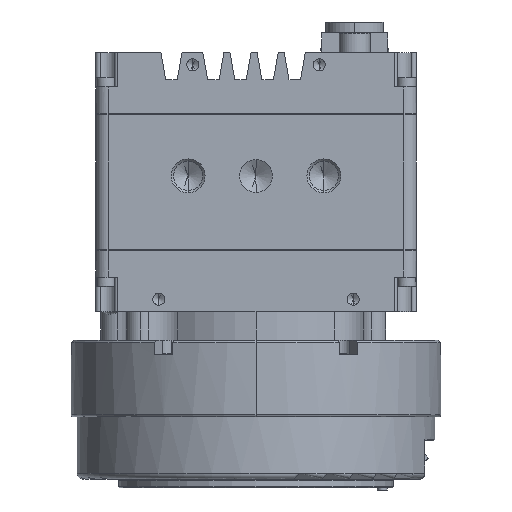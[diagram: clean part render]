
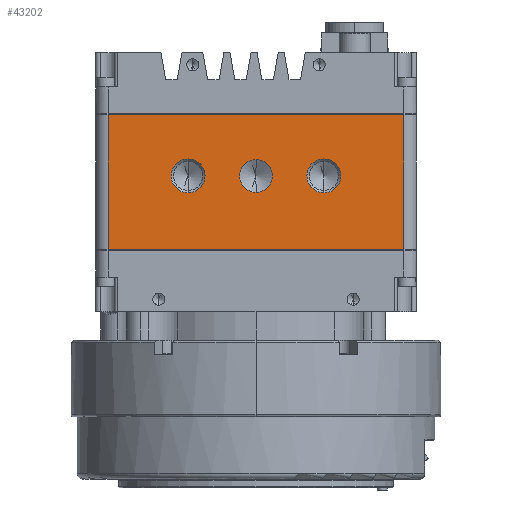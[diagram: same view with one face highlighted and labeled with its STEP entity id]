
A CAD part, front view. The second image highlights one B-rep face of the part: STEP entity #43202.
In plain terms, the highlighted planar face has unit normal (0, -1, 0).
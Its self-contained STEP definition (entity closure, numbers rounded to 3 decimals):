
#59 = FACE_BOUND ( 'NONE', #43498, .T. ) ;
#549 = AXIS2_PLACEMENT_3D ( 'NONE', #18998, #41829, #32364 ) ;
#1091 = VECTOR ( 'NONE', #53051, 1000. ) ;
#1901 = CARTESIAN_POINT ( 'NONE',  ( 30.48, -26.67, 0. ) ) ;
#3075 = ORIENTED_EDGE ( 'NONE', *, *, #6513, .T. ) ;
#3559 = VERTEX_POINT ( 'NONE', #9481 ) ;
#3690 = DIRECTION ( 'NONE',  ( 0., -1., 0. ) ) ;
#3990 = LINE ( 'NONE', #1901, #14362 ) ;
#4199 = FACE_OUTER_BOUND ( 'NONE', #6893, .T. ) ;
#4215 = ORIENTED_EDGE ( 'NONE', *, *, #15147, .F. ) ;
#4569 = EDGE_CURVE ( 'NONE', #34169, #51391, #52384, .T. ) ;
#5108 = CARTESIAN_POINT ( 'NONE',  ( 30.48, -26.67, -27.813 ) ) ;
#5754 = CIRCLE ( 'NONE', #28764, 3.5 ) ;
#6021 = CARTESIAN_POINT ( 'NONE',  ( -14., -26.67, -12.7 ) ) ;
#6449 = ORIENTED_EDGE ( 'NONE', *, *, #29786, .F. ) ;
#6513 = EDGE_CURVE ( 'NONE', #32378, #18016, #42463, .T. ) ;
#6772 = EDGE_CURVE ( 'NONE', #8879, #27399, #7829, .T. ) ;
#6893 = EDGE_LOOP ( 'NONE', ( #3075, #11888, #51635, #35878 ) ) ;
#7829 = CIRCLE ( 'NONE', #8107, 3.378 ) ;
#7920 = DIRECTION ( 'NONE',  ( 0., 0., -1. ) ) ;
#8107 = AXIS2_PLACEMENT_3D ( 'NONE', #56404, #3690, #7920 ) ;
#8879 = VERTEX_POINT ( 'NONE', #26530 ) ;
#9481 = CARTESIAN_POINT ( 'NONE',  ( -30.48, -26.67, -27.813 ) ) ;
#10412 = FACE_BOUND ( 'NONE', #40564, .T. ) ;
#11888 = ORIENTED_EDGE ( 'NONE', *, *, #20032, .T. ) ;
#12428 = CARTESIAN_POINT ( 'NONE',  ( 14., -26.67, -12.7 ) ) ;
#12952 = CARTESIAN_POINT ( 'NONE',  ( 14., -26.67, -9.2 ) ) ;
#13788 = EDGE_CURVE ( 'NONE', #51391, #34169, #5754, .T. ) ;
#14362 = VECTOR ( 'NONE', #15549, 1000. ) ;
#14440 = CARTESIAN_POINT ( 'NONE',  ( -14., -26.67, -12.7 ) ) ;
#15123 = LINE ( 'NONE', #42390, #29654 ) ;
#15147 = EDGE_CURVE ( 'NONE', #17617, #49037, #26351, .T. ) ;
#15549 = DIRECTION ( 'NONE',  ( 0., 0., 1. ) ) ;
#16269 = DIRECTION ( 'NONE',  ( -1., 0., 0. ) ) ;
#16962 = CARTESIAN_POINT ( 'NONE',  ( 30.48, -26.67, -0.127 ) ) ;
#17281 = DIRECTION ( 'NONE',  ( 0., -1., 0. ) ) ;
#17617 = VERTEX_POINT ( 'NONE', #45810 ) ;
#18016 = VERTEX_POINT ( 'NONE', #25869 ) ;
#18086 = AXIS2_PLACEMENT_3D ( 'NONE', #14440, #55015, #27972 ) ;
#18594 = EDGE_CURVE ( 'NONE', #45722, #32378, #3990, .T. ) ;
#18998 = CARTESIAN_POINT ( 'NONE',  ( -33.02, -26.67, 0. ) ) ;
#19191 = PLANE ( 'NONE',  #549 ) ;
#20032 = EDGE_CURVE ( 'NONE', #18016, #3559, #22487, .T. ) ;
#20718 = DIRECTION ( 'NONE',  ( 0., 0., -1. ) ) ;
#20736 = CIRCLE ( 'NONE', #38007, 3.5 ) ;
#20787 = EDGE_CURVE ( 'NONE', #27399, #8879, #43161, .T. ) ;
#22076 = AXIS2_PLACEMENT_3D ( 'NONE', #56080, #51441, #20718 ) ;
#22487 = LINE ( 'NONE', #30878, #1091 ) ;
#23260 = DIRECTION ( 'NONE',  ( 0., -1., 0. ) ) ;
#25138 = ORIENTED_EDGE ( 'NONE', *, *, #6772, .F. ) ;
#25302 = EDGE_CURVE ( 'NONE', #45722, #3559, #15123, .T. ) ;
#25869 = CARTESIAN_POINT ( 'NONE',  ( -30.48, -26.67, -0.127 ) ) ;
#26351 = CIRCLE ( 'NONE', #18086, 3.5 ) ;
#26530 = CARTESIAN_POINT ( 'NONE',  ( 0., -26.67, -9.322 ) ) ;
#27399 = VERTEX_POINT ( 'NONE', #43277 ) ;
#27972 = DIRECTION ( 'NONE',  ( 0., 0., -1. ) ) ;
#28208 = DIRECTION ( 'NONE',  ( 0., 0., -1. ) ) ;
#28764 = AXIS2_PLACEMENT_3D ( 'NONE', #12428, #17281, #47986 ) ;
#29654 = VECTOR ( 'NONE', #16269, 1000. ) ;
#29661 = EDGE_LOOP ( 'NONE', ( #37525, #37800 ) ) ;
#29786 = EDGE_CURVE ( 'NONE', #49037, #17617, #20736, .T. ) ;
#30878 = CARTESIAN_POINT ( 'NONE',  ( -30.48, -26.67, 0. ) ) ;
#32364 = DIRECTION ( 'NONE',  ( 0., 0., 1. ) ) ;
#32378 = VERTEX_POINT ( 'NONE', #16962 ) ;
#34169 = VERTEX_POINT ( 'NONE', #12952 ) ;
#34853 = CARTESIAN_POINT ( 'NONE',  ( -30.48, -26.67, -0.127 ) ) ;
#35878 = ORIENTED_EDGE ( 'NONE', *, *, #18594, .T. ) ;
#36485 = ORIENTED_EDGE ( 'NONE', *, *, #20787, .F. ) ;
#37525 = ORIENTED_EDGE ( 'NONE', *, *, #13788, .F. ) ;
#37800 = ORIENTED_EDGE ( 'NONE', *, *, #4569, .F. ) ;
#38007 = AXIS2_PLACEMENT_3D ( 'NONE', #6021, #50789, #28208 ) ;
#38263 = VECTOR ( 'NONE', #39249, 1000. ) ;
#39249 = DIRECTION ( 'NONE',  ( -1., 0., 0. ) ) ;
#39432 = FACE_BOUND ( 'NONE', #29661, .T. ) ;
#40564 = EDGE_LOOP ( 'NONE', ( #36485, #25138 ) ) ;
#41637 = AXIS2_PLACEMENT_3D ( 'NONE', #49692, #23260, #45117 ) ;
#41829 = DIRECTION ( 'NONE',  ( 0., 1., 0. ) ) ;
#42390 = CARTESIAN_POINT ( 'NONE',  ( -30.48, -26.67, -27.813 ) ) ;
#42463 = LINE ( 'NONE', #34853, #38263 ) ;
#43161 = CIRCLE ( 'NONE', #41637, 3.378 ) ;
#43202 = ADVANCED_FACE ( 'NONE', ( #59, #39432, #10412, #4199 ), #19191, .F. ) ;
#43277 = CARTESIAN_POINT ( 'NONE',  ( 0., -26.67, -16.078 ) ) ;
#43498 = EDGE_LOOP ( 'NONE', ( #6449, #4215 ) ) ;
#45081 = CARTESIAN_POINT ( 'NONE',  ( -14., -26.67, -16.2 ) ) ;
#45117 = DIRECTION ( 'NONE',  ( 0., 0., -1. ) ) ;
#45722 = VERTEX_POINT ( 'NONE', #5108 ) ;
#45810 = CARTESIAN_POINT ( 'NONE',  ( -14., -26.67, -9.2 ) ) ;
#47986 = DIRECTION ( 'NONE',  ( 0., 0., -1. ) ) ;
#49037 = VERTEX_POINT ( 'NONE', #45081 ) ;
#49692 = CARTESIAN_POINT ( 'NONE',  ( 0., -26.67, -12.7 ) ) ;
#50789 = DIRECTION ( 'NONE',  ( 0., -1., 0. ) ) ;
#51391 = VERTEX_POINT ( 'NONE', #57062 ) ;
#51441 = DIRECTION ( 'NONE',  ( 0., -1., 0. ) ) ;
#51635 = ORIENTED_EDGE ( 'NONE', *, *, #25302, .F. ) ;
#52384 = CIRCLE ( 'NONE', #22076, 3.5 ) ;
#53051 = DIRECTION ( 'NONE',  ( 0., 0., -1. ) ) ;
#55015 = DIRECTION ( 'NONE',  ( 0., -1., 0. ) ) ;
#56080 = CARTESIAN_POINT ( 'NONE',  ( 14., -26.67, -12.7 ) ) ;
#56404 = CARTESIAN_POINT ( 'NONE',  ( 0., -26.67, -12.7 ) ) ;
#57062 = CARTESIAN_POINT ( 'NONE',  ( 14., -26.67, -16.2 ) ) ;
